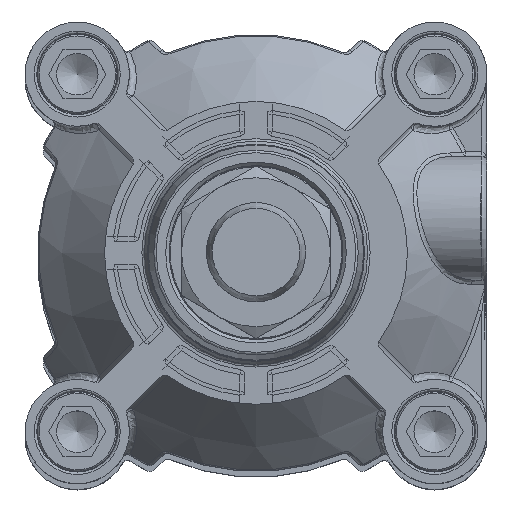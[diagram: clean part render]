
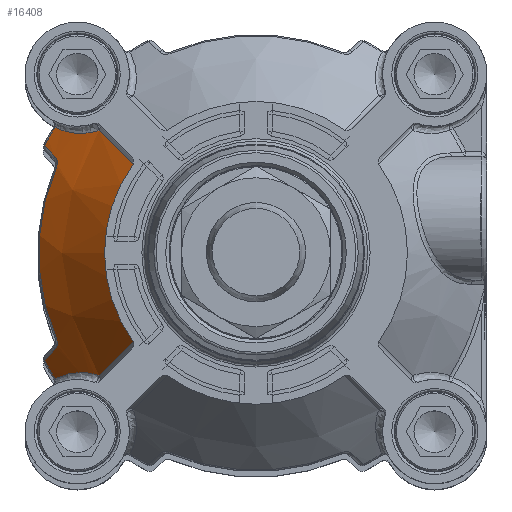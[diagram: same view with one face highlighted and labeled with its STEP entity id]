
A CAD part, top view. The second image highlights one B-rep face of the part: STEP entity #16408.
In plain terms, the highlighted conical face has half-angle 41.186 degrees and reference radius 39.25 mm.
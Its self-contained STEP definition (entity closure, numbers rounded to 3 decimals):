
#280=B_SPLINE_CURVE_WITH_KNOTS('',3,(#23776,#23777,#23778,#23779),
 .UNSPECIFIED.,.F.,.F.,(4,4),(0.,1.),.UNSPECIFIED.);
#281=B_SPLINE_CURVE_WITH_KNOTS('',3,(#23782,#23783,#23784,#23785,#23786,
#23787,#23788,#23789,#23790,#23791,#23792,#23793,#23794,#23795),
 .UNSPECIFIED.,.F.,.F.,(4,1,1,1,1,1,1,1,1,1,1,4),(0.,0.125,0.25,0.375,0.438,
0.469,0.5,0.531,0.563,0.625,0.75,1.),.UNSPECIFIED.);
#282=B_SPLINE_CURVE_WITH_KNOTS('',3,(#23799,#23800,#23801,#23802),
 .UNSPECIFIED.,.F.,.F.,(4,4),(0.,1.),.UNSPECIFIED.);
#283=B_SPLINE_CURVE_WITH_KNOTS('',3,(#23804,#23805,#23806,#23807,#23808,
#23809,#23810,#23811,#23812),.UNSPECIFIED.,.F.,.F.,(4,1,1,1,1,1,4),(0.,
0.25,0.375,0.5,0.625,0.75,1.),.UNSPECIFIED.);
#284=B_SPLINE_CURVE_WITH_KNOTS('',3,(#23816,#23817,#23818,#23819,#23820,
#23821,#23822,#23823,#23824,#23825),.UNSPECIFIED.,.F.,.F.,(4,1,1,1,1,1,
1,4),(0.,0.125,0.25,0.375,0.5,0.625,0.75,1.),.UNSPECIFIED.);
#285=B_SPLINE_CURVE_WITH_KNOTS('',3,(#23827,#23828,#23829,#23830),
 .UNSPECIFIED.,.F.,.F.,(4,4),(0.,1.),.UNSPECIFIED.);
#286=B_SPLINE_CURVE_WITH_KNOTS('',3,(#23834,#23835,#23836,#23837,#23838,
#23839,#23840,#23841,#23842,#23843,#23844,#23845,#23846,#23847,#23848,#23849,
#23850),.UNSPECIFIED.,.F.,.F.,(4,1,1,1,1,1,1,1,1,1,1,1,1,1,4),(0.,0.125,
0.188,0.25,0.313,0.375,0.438,0.5,0.563,0.625,0.688,0.75,0.813,0.875,
1.),.UNSPECIFIED.);
#287=B_SPLINE_CURVE_WITH_KNOTS('',3,(#23852,#23853,#23854,#23855),
 .UNSPECIFIED.,.F.,.F.,(4,4),(0.,1.),.UNSPECIFIED.);
#2059=CONICAL_SURFACE('',#17357,39.25,0.719);
#2906=ORIENTED_EDGE('',*,*,#6408,.F.);
#2907=ORIENTED_EDGE('',*,*,#6409,.F.);
#2908=ORIENTED_EDGE('',*,*,#6410,.F.);
#2909=ORIENTED_EDGE('',*,*,#6411,.F.);
#2910=ORIENTED_EDGE('',*,*,#6412,.F.);
#2911=ORIENTED_EDGE('',*,*,#6413,.F.);
#2912=ORIENTED_EDGE('',*,*,#6414,.F.);
#2913=ORIENTED_EDGE('',*,*,#6415,.F.);
#2914=ORIENTED_EDGE('',*,*,#6416,.F.);
#2915=ORIENTED_EDGE('',*,*,#6417,.F.);
#2916=ORIENTED_EDGE('',*,*,#6418,.F.);
#2917=ORIENTED_EDGE('',*,*,#6419,.F.);
#6408=EDGE_CURVE('',#8170,#8171,#280,.T.);
#6409=EDGE_CURVE('',#8172,#8170,#281,.F.);
#6410=EDGE_CURVE('',#8173,#8172,#9259,.T.);
#6411=EDGE_CURVE('',#8174,#8173,#282,.F.);
#6412=EDGE_CURVE('',#8175,#8174,#283,.F.);
#6413=EDGE_CURVE('',#8176,#8175,#9260,.T.);
#6414=EDGE_CURVE('',#8177,#8176,#284,.F.);
#6415=EDGE_CURVE('',#8178,#8177,#285,.F.);
#6416=EDGE_CURVE('',#8179,#8178,#9261,.T.);
#6417=EDGE_CURVE('',#8180,#8179,#286,.F.);
#6418=EDGE_CURVE('',#8181,#8180,#287,.T.);
#6419=EDGE_CURVE('',#8171,#8181,#9262,.T.);
#8170=VERTEX_POINT('',#23780);
#8171=VERTEX_POINT('',#23781);
#8172=VERTEX_POINT('',#23796);
#8173=VERTEX_POINT('',#23798);
#8174=VERTEX_POINT('',#23803);
#8175=VERTEX_POINT('',#23813);
#8176=VERTEX_POINT('',#23815);
#8177=VERTEX_POINT('',#23826);
#8178=VERTEX_POINT('',#23831);
#8179=VERTEX_POINT('',#23833);
#8180=VERTEX_POINT('',#23851);
#8181=VERTEX_POINT('',#23856);
#9259=CIRCLE('',#17358,47.753);
#9260=CIRCLE('',#17359,43.753);
#9261=CIRCLE('',#17360,47.753);
#9262=CIRCLE('',#17361,30.5);
#9910=EDGE_LOOP('',(#2906,#2907,#2908,#2909,#2910,#2911,#2912,#2913,#2914,
#2915,#2916,#2917));
#10796=FACE_BOUND('',#9910,.T.);
#16408=ADVANCED_FACE('',(#10796),#2059,.T.);
#17357=AXIS2_PLACEMENT_3D('',#23775,#19138,#19139);
#17358=AXIS2_PLACEMENT_3D('',#23797,#19140,#19141);
#17359=AXIS2_PLACEMENT_3D('',#23814,#19142,#19143);
#17360=AXIS2_PLACEMENT_3D('',#23832,#19144,#19145);
#17361=AXIS2_PLACEMENT_3D('',#23857,#19146,#19147);
#19138=DIRECTION('',(0.,0.,-1.));
#19139=DIRECTION('',(0.707,-0.707,0.));
#19140=DIRECTION('',(0.,0.,-1.));
#19141=DIRECTION('',(-0.868,0.496,0.));
#19142=DIRECTION('',(0.,0.,-1.));
#19143=DIRECTION('',(-1.,0.,0.));
#19144=DIRECTION('',(0.,0.,-1.));
#19145=DIRECTION('',(-0.868,-0.496,0.));
#19146=DIRECTION('',(0.,0.,1.));
#19147=DIRECTION('',(1.,0.,0.));
#23775=CARTESIAN_POINT('',(0.,0.,38.));
#23776=CARTESIAN_POINT('',(-31.621,24.68,37.019));
#23777=CARTESIAN_POINT('',(-29.328,22.4,40.68));
#23778=CARTESIAN_POINT('',(-27.035,20.12,44.341));
#23779=CARTESIAN_POINT('',(-24.742,17.84,48.003));
#23780=CARTESIAN_POINT('',(-31.619,24.679,37.017));
#23781=CARTESIAN_POINT('',(-24.739,17.839,48.));
#23782=CARTESIAN_POINT('',(-31.619,24.679,37.017));
#23783=CARTESIAN_POINT('',(-31.999,24.55,36.766));
#23784=CARTESIAN_POINT('',(-32.765,24.332,36.219));
#23785=CARTESIAN_POINT('',(-33.94,24.128,35.269));
#23786=CARTESIAN_POINT('',(-34.942,24.064,34.371));
#23787=CARTESIAN_POINT('',(-35.664,24.077,33.679));
#23788=CARTESIAN_POINT('',(-36.072,24.1,33.277));
#23789=CARTESIAN_POINT('',(-36.405,24.129,32.942));
#23790=CARTESIAN_POINT('',(-36.646,24.156,32.695));
#23791=CARTESIAN_POINT('',(-36.999,24.202,32.33));
#23792=CARTESIAN_POINT('',(-37.6,24.301,31.693));
#23793=CARTESIAN_POINT('',(-38.805,24.583,30.359));
#23794=CARTESIAN_POINT('',(-39.823,24.974,29.136));
#23795=CARTESIAN_POINT('',(-40.494,25.31,28.283));
#23796=CARTESIAN_POINT('',(-40.494,25.31,28.283));
#23797=CARTESIAN_POINT('',(0.,0.,28.283));
#23798=CARTESIAN_POINT('',(-42.539,21.697,28.283));
#23799=CARTESIAN_POINT('',(-42.539,21.697,28.283));
#23800=CARTESIAN_POINT('',(-41.85,20.938,29.378));
#23801=CARTESIAN_POINT('',(-41.181,20.2,30.438));
#23802=CARTESIAN_POINT('',(-40.531,19.482,31.462));
#23803=CARTESIAN_POINT('',(-40.531,19.482,31.462));
#23804=CARTESIAN_POINT('',(-40.531,19.482,31.462));
#23805=CARTESIAN_POINT('',(-40.411,19.35,31.652));
#23806=CARTESIAN_POINT('',(-40.263,19.139,31.908));
#23807=CARTESIAN_POINT('',(-40.128,18.823,32.202));
#23808=CARTESIAN_POINT('',(-40.06,18.592,32.384));
#23809=CARTESIAN_POINT('',(-40.014,18.271,32.585));
#23810=CARTESIAN_POINT('',(-40.016,17.872,32.772));
#23811=CARTESIAN_POINT('',(-40.094,17.516,32.854));
#23812=CARTESIAN_POINT('',(-40.182,17.312,32.854));
#23813=CARTESIAN_POINT('',(-40.182,17.312,32.854));
#23814=CARTESIAN_POINT('',(0.,0.,32.854));
#23815=CARTESIAN_POINT('',(-40.182,-17.312,32.854));
#23816=CARTESIAN_POINT('',(-40.182,-17.312,32.854));
#23817=CARTESIAN_POINT('',(-40.138,-17.414,32.854));
#23818=CARTESIAN_POINT('',(-40.068,-17.621,32.833));
#23819=CARTESIAN_POINT('',(-40.016,-17.978,32.722));
#23820=CARTESIAN_POINT('',(-40.014,-18.273,32.584));
#23821=CARTESIAN_POINT('',(-40.061,-18.595,32.382));
#23822=CARTESIAN_POINT('',(-40.128,-18.824,32.201));
#23823=CARTESIAN_POINT('',(-40.263,-19.139,31.908));
#23824=CARTESIAN_POINT('',(-40.411,-19.35,31.652));
#23825=CARTESIAN_POINT('',(-40.531,-19.482,31.462));
#23826=CARTESIAN_POINT('',(-40.531,-19.482,31.462));
#23827=CARTESIAN_POINT('',(-40.531,-19.482,31.462));
#23828=CARTESIAN_POINT('',(-41.181,-20.2,30.438));
#23829=CARTESIAN_POINT('',(-41.85,-20.938,29.378));
#23830=CARTESIAN_POINT('',(-42.539,-21.697,28.283));
#23831=CARTESIAN_POINT('',(-42.539,-21.697,28.283));
#23832=CARTESIAN_POINT('',(0.,0.,28.283));
#23833=CARTESIAN_POINT('',(-40.494,-25.31,28.283));
#23834=CARTESIAN_POINT('',(-40.494,-25.31,28.283));
#23835=CARTESIAN_POINT('',(-40.17,-25.148,28.695));
#23836=CARTESIAN_POINT('',(-39.683,-24.931,29.298));
#23837=CARTESIAN_POINT('',(-39.021,-24.69,30.084));
#23838=CARTESIAN_POINT('',(-38.541,-24.538,30.641));
#23839=CARTESIAN_POINT('',(-37.992,-24.392,31.26));
#23840=CARTESIAN_POINT('',(-37.463,-24.278,31.838));
#23841=CARTESIAN_POINT('',(-36.923,-24.189,32.411));
#23842=CARTESIAN_POINT('',(-36.409,-24.127,32.941));
#23843=CARTESIAN_POINT('',(-35.804,-24.083,33.543));
#23844=CARTESIAN_POINT('',(-35.231,-24.072,34.092));
#23845=CARTESIAN_POINT('',(-34.648,-24.09,34.629));
#23846=CARTESIAN_POINT('',(-34.101,-24.133,35.113));
#23847=CARTESIAN_POINT('',(-33.442,-24.218,35.669));
#23848=CARTESIAN_POINT('',(-32.623,-24.375,36.318));
#23849=CARTESIAN_POINT('',(-32.016,-24.544,36.754));
#23850=CARTESIAN_POINT('',(-31.619,-24.679,37.017));
#23851=CARTESIAN_POINT('',(-31.619,-24.679,37.017));
#23852=CARTESIAN_POINT('',(-24.742,-17.84,48.003));
#23853=CARTESIAN_POINT('',(-27.035,-20.12,44.341));
#23854=CARTESIAN_POINT('',(-29.328,-22.4,40.68));
#23855=CARTESIAN_POINT('',(-31.621,-24.68,37.019));
#23856=CARTESIAN_POINT('',(-24.739,-17.839,48.));
#23857=CARTESIAN_POINT('',(0.,0.,48.));
